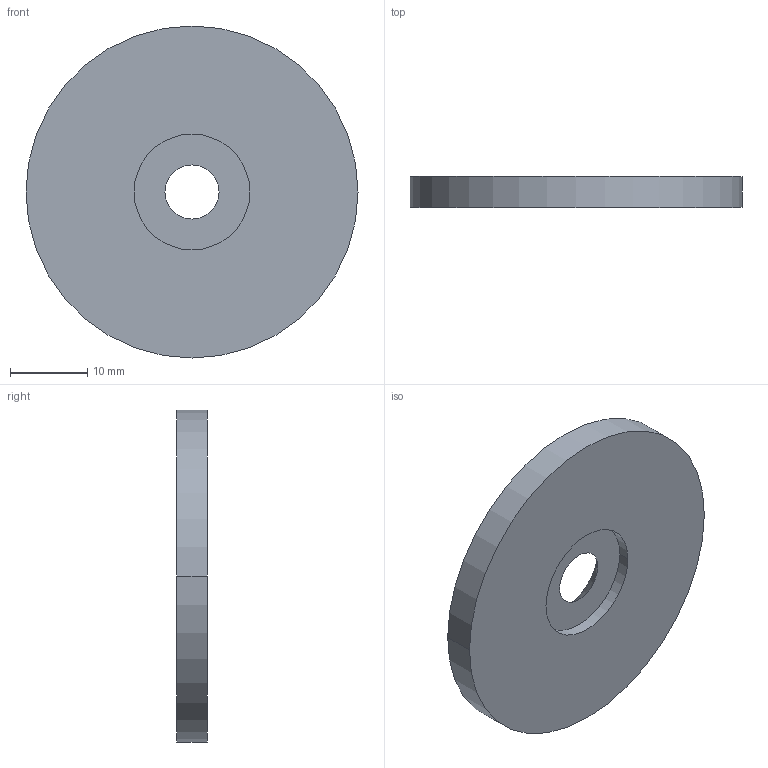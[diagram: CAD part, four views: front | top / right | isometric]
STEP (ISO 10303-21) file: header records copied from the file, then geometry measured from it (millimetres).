
FILE_DESCRIPTION((''),'2;1');
FILE_NAME('CHM_3','2002-12-27T',('Lipro doo'),('Lipro d.o.o.'),'PRO/ENGINEER BY PARAMETRIC TECHNOLOGY CORPORATION, 2001150','PRO/ENGINEER BY PARAMETRIC TECHNOLOGY CORPORATION, 2001150','');
FILE_SCHEMA(('CONFIG_CONTROL_DESIGN'));
Length unit declared in the file: millimetre
Products named in the file (1): CHM_3
Bounding box: 43 x 4 x 43 mm (x, y, z)
Volume: 5362.4 mm3; surface area: 3469.4 mm2
Topology: 1 solids, 1 shells, 9 faces, 18 edges, 12 vertices
Faces by surface type: cylinder 4, plane 3, cone 2
Entity records: 286 total; most frequent: DIRECTION 48, CARTESIAN_POINT 39, ORIENTED_EDGE 36, AXIS2_PLACEMENT_3D 21, EDGE_CURVE 18, VERTEX_POINT 12, EDGE_LOOP 12, CIRCLE 12
